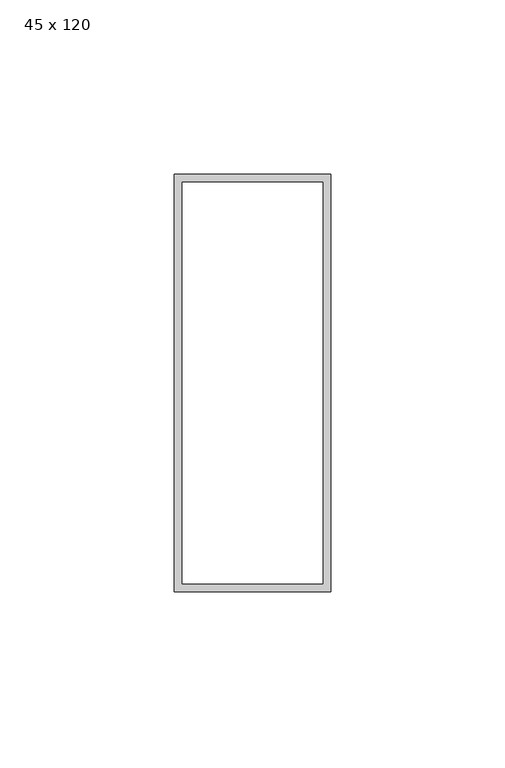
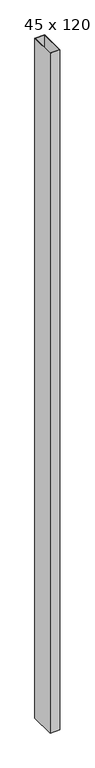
"""IFC4 building model written with IfcOpenShell, lengths in millimetres: column geometry, Wood Tube Pappersregel : 45 x 120."""

from ifc_helpers import new_model, si_unit, origin, origin_with_axes, place, context, project, spatial, polyline, outline, extrude, source, transform, mapped, element, save


def column_45_x_120_7c1e366e(model_context):
    return source(origin(), model_context, "Body", "SweptSolid", [
        extrude(outline(polyline([(22.5, -60.0), (-22.5, -60.0), (-22.5, 60.0), (22.5, 60.0), (22.5, -60.0)]), holes=[polyline([(20.2, 57.7), (-20.2, 57.7), (-20.2, -57.7), (20.2, -57.7), (20.2, 57.7)])]), origin_with_axes(), (0.0, 0.0, 1.0), 3300.0),
    ])


if __name__ == "__main__":
    model = new_model("IFC4")
    model_context = context("Model", 3, world=origin())
    ifc_project = project(units=[si_unit("LENGTHUNIT", "METRE", prefix="MILLI")], contexts=[model_context])
    site = spatial("IfcSite", under=ifc_project)
    building = spatial("IfcBuilding", under=site)
    placement = place(None, origin())
    column_45_x_120_shape = column_45_x_120_7c1e366e(model_context)
    element("IfcColumn", 1, ObjectType="Wood Tube Pappersregel : 45 x 120", at=placement, inside=building, context=model_context, shape_type="MappedRepresentation", body=[
        mapped(column_45_x_120_shape, transform((0.0, 0.0, 0.0), x_axis=(1.0, 0.0, 0.0), y_axis=(0.0, 1.0, 0.0), z_axis=(0.0, 0.0, 1.0))),
    ])
    save(model, "model.ifc")
